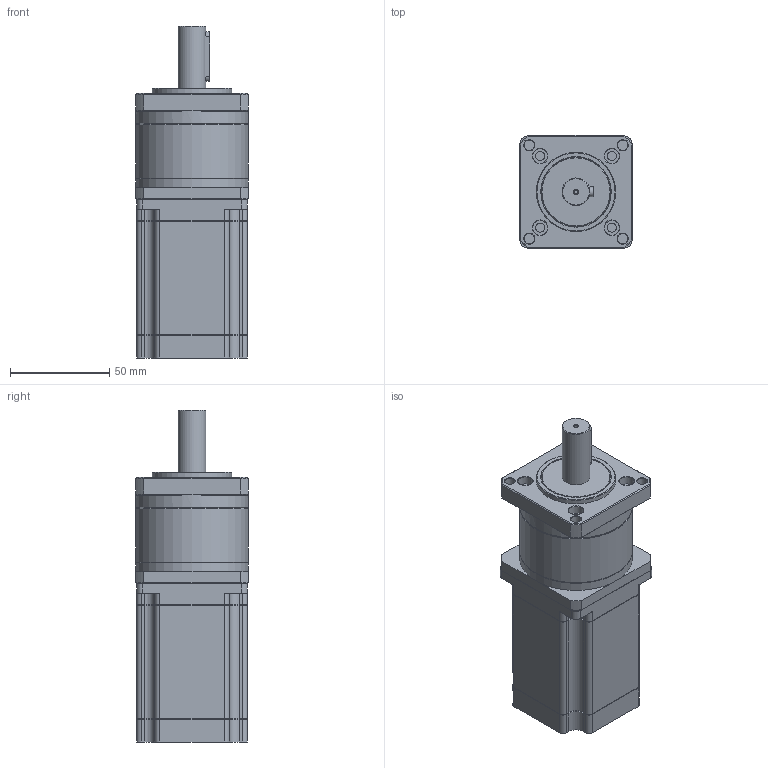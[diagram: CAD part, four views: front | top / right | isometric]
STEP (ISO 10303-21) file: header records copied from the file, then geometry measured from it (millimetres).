
FILE_DESCRIPTION (( 'STEP AP203' ), '1' );
FILE_NAME ('YK57HB80-PG05.STEP', '2018-09-13T03:19:59', ( '' ), ( '' ), 'SwSTEP 2.0', 'SolidWorks 2014', '' );
FILE_SCHEMA (( 'CONFIG_CONTROL_DESIGN' ));
Length unit declared in the file: millimetre
Products named in the file (2): YK57HB80-PG05
Bounding box: 57 x 57 x 167.6 mm (x, y, z)
Volume: 378671.7 mm3; surface area: 38599.2 mm2
Topology: 1 solids, 2 shells, 260 faces, 616 edges, 375 vertices
Faces by surface type: plane 128, cylinder 70, cone 62
Full cylindrical faces by diameter (mm): 2 x1, 4.5 x4, 5.2 x4, 7.5 x4, 14 x1, 35 x1, 37 x1, 40 x1, 57 x3
Entity records: 7311 total; most frequent: CARTESIAN_POINT 1340, DIRECTION 1262, ORIENTED_EDGE 1116, EDGE_CURVE 558, AXIS2_PLACEMENT_3D 476, VERTEX_POINT 362, EDGE_LOOP 330, VECTOR 310
